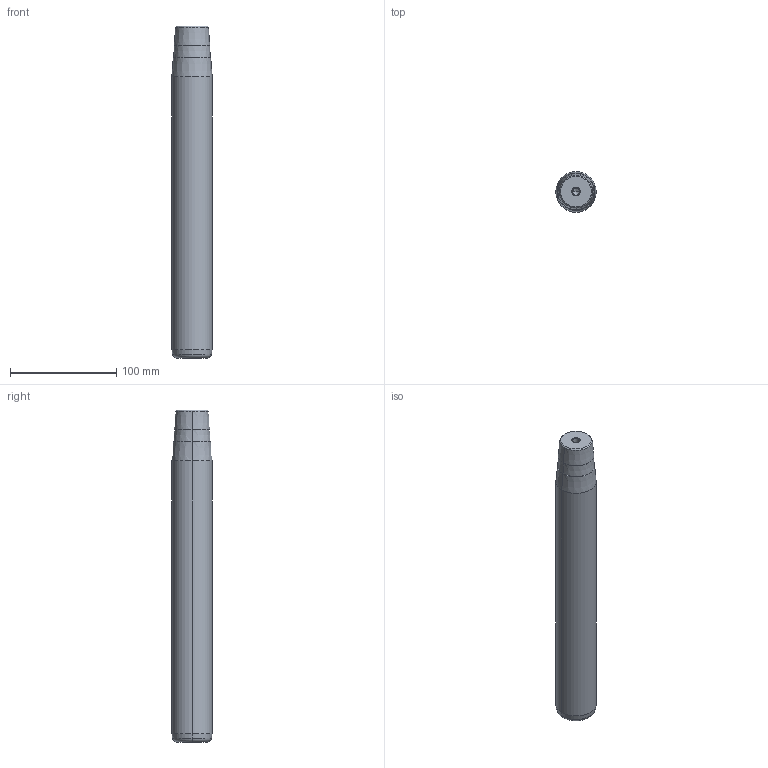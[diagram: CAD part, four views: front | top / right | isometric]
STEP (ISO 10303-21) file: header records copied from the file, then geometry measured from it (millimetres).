
FILE_DESCRIPTION(('CATIA V5 STEP Exchange'),'2;1');
FILE_NAME('C:\Users\Utente\Desktop\IO LAVORO\3D X SITO CF\X SITO\722\722-38x280x313.stp','2021-01-08T16:00:46+00:00',('none'),('none'),'CATIA Version 5 Release 20 GA (IN-10)','CATIA V5 STEP AP203','none');
FILE_SCHEMA(('CONFIG_CONTROL_DESIGN'));
Length unit declared in the file: millimetre
Products named in the file (1): 722-38x280x313
Bounding box: 38 x 38 x 313 mm (x, y, z)
Volume: 342229.8 mm3; surface area: 39493.6 mm2
Topology: 1 solids, 1 shells, 32 faces, 66 edges, 34 vertices
Faces by surface type: cone 22, cylinder 6, plane 2, torus 2
Entity records: 854 total; most frequent: CARTESIAN_POINT 175, DIRECTION 124, ORIENTED_EDGE 124, AXIS2_PLACEMENT_3D 65, EDGE_CURVE 62, EDGE_LOOP 34, VERTEX_POINT 34, ADVANCED_FACE 32
